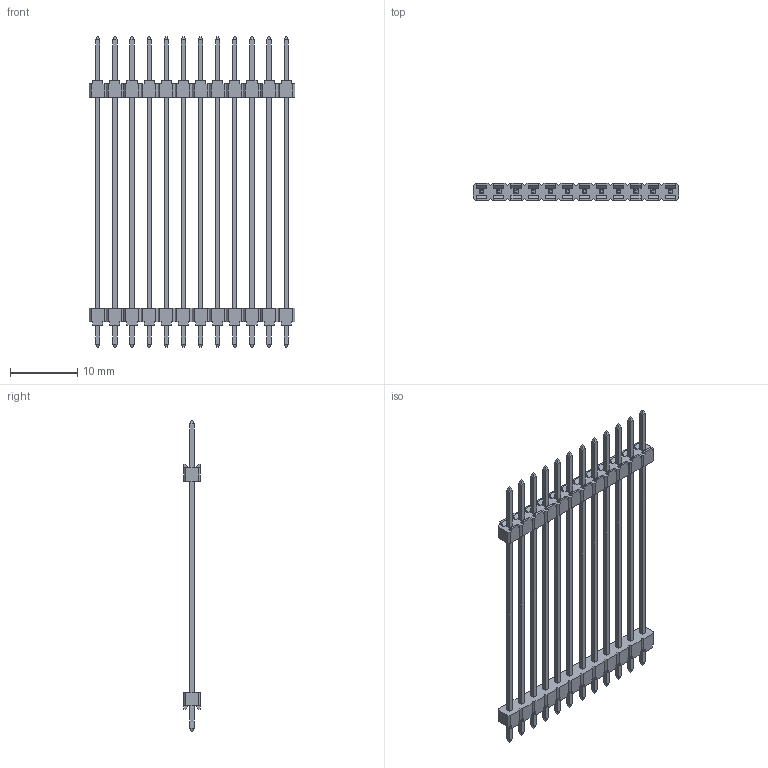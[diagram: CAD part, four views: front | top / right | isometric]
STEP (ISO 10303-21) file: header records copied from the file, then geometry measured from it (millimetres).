
FILE_DESCRIPTION(/* description */ (''),/* implementation_level */ '2;1');
FILE_NAME(/* name */ '961412-9041704-XX',/* time_stamp */ '2007-06-14T17:32:29+02:00',/* author */ (''),/* organization */ (''),/* preprocessor_version */ 'ST-DEVELOPER v9',/* originating_system */ 'UGS - NX 3.0',/* authorisation */ '');
FILE_SCHEMA (('AUTOMOTIVE_DESIGN { 1 0 10303 214 1 1 1 1 }'));
Length unit declared in the file: millimetre
Products named in the file (1): 961412-9041704-XX
Bounding box: 30.48 x 2.5 x 46.1 mm (x, y, z)
Volume: 515.1 mm3; surface area: 1910.5 mm2
Topology: 1 solids, 1 shells, 660 faces, 1800 edges, 1168 vertices
Faces by surface type: plane 660
Entity records: 20344 total; most frequent: CARTESIAN_POINT 3629, ORIENTED_EDGE 3600, DIRECTION 3122, EDGE_CURVE 1800, LINE 1800, VECTOR 1800, VERTEX_POINT 1168, EDGE_LOOP 708
